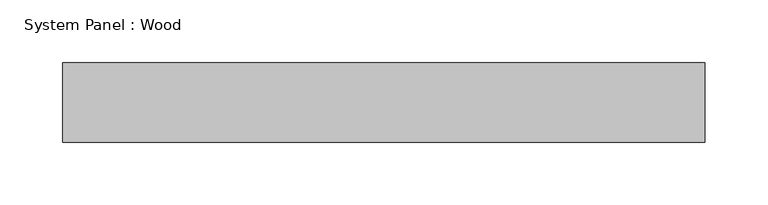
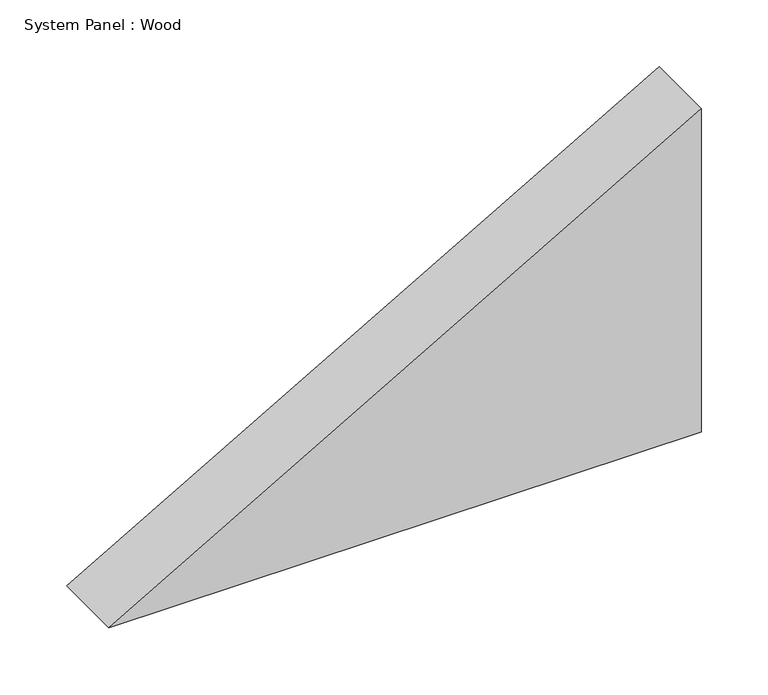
"""IFC4 building model written with IfcOpenShell, lengths in millimetres: plate geometry, System Panel : Wood."""

import ifcopenshell
import ifcopenshell.guid

model = None  # the IFC model being written
_history = None  # IfcOwnerHistory: only IFC2X3 demands one
_inside = {}  # id of a spatial element -> (the spatial element, [elements in it])
_under = {}  # id of a project, library or spatial element -> (it, [spatial elements below it])
_declared = {}  # id of a project -> (the project, [libraries it declares])
_typed = {}  # id of a type object -> (the type object, [elements of that type])
_made_of = {}  # id of a material, layer set ... -> (it, [elements and type objects made of it])


def new_model(schema):
    """Start an empty IFC model of exactly this schema.

    Asked for "IFC4X3", IfcOpenShell would pick the latest addendum, in which some entities
    have other attributes; the version numbers below select the first issue.
    IFC2X3 requires an IfcOwnerHistory on every rooted entity: one is made here for all.
    """
    global model, _history
    if schema == "IFC4X3":
        model = ifcopenshell.file(schema_version=(4, 3, 0, 0))
    else:
        model = ifcopenshell.file(schema=schema)
    _inside.clear()
    _under.clear()
    _declared.clear()
    _typed.clear()
    _made_of.clear()
    _history = None
    if model.schema == "IFC2X3":
        org = make("IfcOrganization", Name="unknown")
        user = make(
            "IfcPersonAndOrganization",
            ThePerson=make("IfcPerson", FamilyName="unknown"),
            TheOrganization=org,
        )
        app = make(
            "IfcApplication",
            ApplicationDeveloper=org,
            Version="unknown",
            ApplicationFullName="unknown",
            ApplicationIdentifier="unknown",
        )
        _history = make(
            "IfcOwnerHistory",
            OwningUser=user,
            OwningApplication=app,
            ChangeAction="ADDED",
            CreationDate=0,
        )
    return model


def make(cls, **values):
    """One entity of the class cls with the attributes given. An attribute that is None is left unset."""
    return model.create_entity(
        cls, **{name: value for name, value in values.items() if value is not None}
    )


def rooted(cls, **values):
    """An entity with a GlobalId (a new one), such as an element, a storey or a relation."""
    return make(cls, GlobalId=ifcopenshell.guid.new(), OwnerHistory=_history, **values)


def si_unit(unit_type, name, prefix=None):
    """IfcSIUnit, for example si_unit("LENGTHUNIT", "METRE", prefix="MILLI")."""
    return make("IfcSIUnit", UnitType=unit_type, Prefix=prefix, Name=name)


def assignment(units):
    """IfcUnitAssignment: the units of a project."""
    return None if units is None else make("IfcUnitAssignment", Units=units)


def point(xyz):
    """IfcCartesianPoint."""
    return None if xyz is None else make("IfcCartesianPoint", Coordinates=xyz)


def direction(xyz):
    """IfcDirection."""
    return None if xyz is None else make("IfcDirection", DirectionRatios=xyz)


def frame(location, z_axis=None, x_axis=None):
    """IfcAxis2Placement3D, a coordinate frame: its origin and axes. An axis left out is left unset."""
    return make(
        "IfcAxis2Placement3D",
        Location=point(location),
        Axis=direction(z_axis),
        RefDirection=direction(x_axis),
    )


def origin():
    """The frame at (0, 0, 0) with its axes left unset."""
    return frame((0.0, 0.0, 0.0))


def place(relative_to, where):
    """IfcLocalPlacement: puts the frame where relative to a parent placement (None: the world)."""
    return make(
        "IfcLocalPlacement", PlacementRelTo=relative_to, RelativePlacement=where
    )


def context(
    kind, dimensions, precision=None, world=None, true_north=None, identifier=None
):
    """IfcGeometricRepresentationContext, for example the 3D "Model" context."""
    return make(
        "IfcGeometricRepresentationContext",
        ContextIdentifier=identifier,
        ContextType=kind,
        CoordinateSpaceDimension=dimensions,
        Precision=precision,
        WorldCoordinateSystem=world,
        TrueNorth=true_north,
    )


def project(units=None, contexts=None):
    """IfcProject with its units and contexts."""
    return rooted(
        "IfcProject",
        Name="project",
        RepresentationContexts=contexts,
        UnitsInContext=assignment(units),
    )


def spatial(cls, under=None, at=None, **own):
    """A site, building, storey or space (cls), placed at a placement, below another one or the project."""
    s = rooted(cls, ObjectPlacement=at, **own)
    if under is not None:
        _under.setdefault(under.id(), (under, []))[1].append(s)
    return s


def polyline(points):
    """IfcPolyline through the points."""
    return make("IfcPolyline", Points=[point(p) for p in points])


def outline(outer, holes=None, kind="AREA"):
    """IfcArbitraryClosedProfileDef: a profile drawn as a closed curve; with holes, ...WithVoids."""
    if holes is None:
        return make("IfcArbitraryClosedProfileDef", ProfileType=kind, OuterCurve=outer)
    return make(
        "IfcArbitraryProfileDefWithVoids",
        ProfileType=kind,
        OuterCurve=outer,
        InnerCurves=holes,
    )


def extrude(swept, where, along, depth):
    """IfcExtrudedAreaSolid: the profile swept, set in the frame where, extruded along a direction by depth."""
    return make(
        "IfcExtrudedAreaSolid",
        SweptArea=swept,
        Position=where,
        ExtrudedDirection=direction(along),
        Depth=depth,
    )


def shape(context_of_items, identifier, shape_type, items):
    """IfcShapeRepresentation: the items that make up one representation, for example the "Body"."""
    return make(
        "IfcShapeRepresentation",
        ContextOfItems=context_of_items,
        RepresentationIdentifier=identifier,
        RepresentationType=shape_type,
        Items=items,
    )


def source(mapping_origin, context_of_items, identifier, shape_type, items):
    """IfcRepresentationMap: a shape defined once, which mapped items show again and again."""
    return make(
        "IfcRepresentationMap",
        MappingOrigin=mapping_origin,
        MappedRepresentation=shape(context_of_items, identifier, shape_type, items),
    )


def transform(
    local_origin,
    x_axis=None,
    y_axis=None,
    z_axis=None,
    scale=None,
    scale2=None,
    scale3=None,
    uniform=True,
):
    """IfcCartesianTransformationOperator3D, or its non-uniform kind. x_axis, y_axis, z_axis: its Axis1, 2, 3."""
    if uniform:
        return make(
            "IfcCartesianTransformationOperator3D",
            Axis1=direction(x_axis),
            Axis2=direction(y_axis),
            LocalOrigin=point(local_origin),
            Scale=scale,
            Axis3=direction(z_axis),
        )
    return make(
        "IfcCartesianTransformationOperator3DnonUniform",
        Axis1=direction(x_axis),
        Axis2=direction(y_axis),
        LocalOrigin=point(local_origin),
        Scale=scale,
        Axis3=direction(z_axis),
        Scale2=scale2,
        Scale3=scale3,
    )


def mapped(mapping_source, mapping_target):
    """IfcMappedItem: shows the shape of a source again, moved by a transform."""
    return make(
        "IfcMappedItem", MappingSource=mapping_source, MappingTarget=mapping_target
    )


def made_of(thing, what):
    """Note that an element or type object is made of a material, layer set ...; save() writes the relation."""
    if what is not None:
        _made_of.setdefault(what.id(), (what, []))[1].append(thing)
    return thing


def element(
    cls,
    number,
    at=None,
    inside=None,
    cuts=None,
    type_object=None,
    material=None,
    context=None,
    identifier="Body",
    shape_type=None,
    held_by="IfcProductDefinitionShape",
    body=None,
    shapes=None,
    **own,
):
    """One element of the class cls, such as IfcWall. Its Tag is "e" and its number.

    at: its placement. inside: the storey or other place that contains it. cuts: it is an
    opening in that element (IfcRelVoidsElement). A single representation is given by context,
    identifier, shape_type and body (its items); several are given by shapes. held_by: the class
    of the entity that holds the representations. save() writes the other relations.
    """
    e = rooted(cls, Tag="e%d" % number, ObjectPlacement=at, **own)
    if body is not None:
        shapes = [shape(context, identifier, shape_type, body)]
    if shapes is not None:
        e.Representation = make(held_by, Representations=shapes)
    if inside is not None:
        _inside.setdefault(inside.id(), (inside, []))[1].append(e)
    if cuts is not None:
        rooted(
            "IfcRelVoidsElement", RelatingBuildingElement=cuts, RelatedOpeningElement=e
        )
    if type_object is not None:
        _typed.setdefault(type_object.id(), (type_object, []))[1].append(e)
    return made_of(e, material)


def aggregate(whole, parts):
    """IfcRelAggregates: a whole, such as a stair, and the parts it consists of."""
    return rooted("IfcRelAggregates", RelatingObject=whole, RelatedObjects=parts)


def save(model, path):
    """Write the relations noted so far, then the file.

    IfcRelAggregates (storeys below a building ...), IfcRelContainedInSpatialStructure (elements
    in a storey), IfcRelDefinesByType, IfcRelAssociatesMaterial and IfcRelDeclares: one each for
    every whole, place, type object, material and project.
    """
    for whole, parts in _under.values():
        aggregate(whole, parts)
    for where, things in _inside.values():
        rooted(
            "IfcRelContainedInSpatialStructure",
            RelatedElements=things,
            RelatingStructure=where,
        )
    for kind, things in _typed.values():
        rooted("IfcRelDefinesByType", RelatedObjects=things, RelatingType=kind)
    for what, things in _made_of.values():
        rooted("IfcRelAssociatesMaterial", RelatedObjects=things, RelatingMaterial=what)
    for by, libraries in _declared.values():
        rooted("IfcRelDeclares", RelatingContext=by, RelatedDefinitions=libraries)
    model.write(path)


def system_panel_wood_9dc9b748(model_context):
    return source(origin(), model_context, "Body", "SweptSolid", [
        extrude(outline(polyline([(0.0, -256.4955211), (0.0, 256.4955211), (296.1755163, 256.4955211), (0.0, -256.4955211)])), frame((0.0, -44.45, 0.0), z_axis=(0.0, 1.0, 0.0), x_axis=(0.0, 0.0, 1.0)), (0.0, 0.0, 1.0), 63.5),
    ])


if __name__ == "__main__":
    model = new_model("IFC4")
    model_context = context("Model", 3, world=origin())
    ifc_project = project(units=[si_unit("LENGTHUNIT", "METRE", prefix="MILLI")], contexts=[model_context])
    site = spatial("IfcSite", under=ifc_project)
    building = spatial("IfcBuilding", under=site)
    placement = place(None, origin())
    system_panel_wood_shape = system_panel_wood_9dc9b748(model_context)
    element("IfcPlate", 1, ObjectType="System Panel : Wood", at=placement, inside=building, context=model_context, shape_type="MappedRepresentation", body=[
        mapped(system_panel_wood_shape, transform((0.0, 0.0, 0.0), x_axis=(1.0, 0.0, 0.0), y_axis=(0.0, 1.0, 0.0), z_axis=(0.0, 0.0, 1.0))),
    ])
    save(model, "model.ifc")
